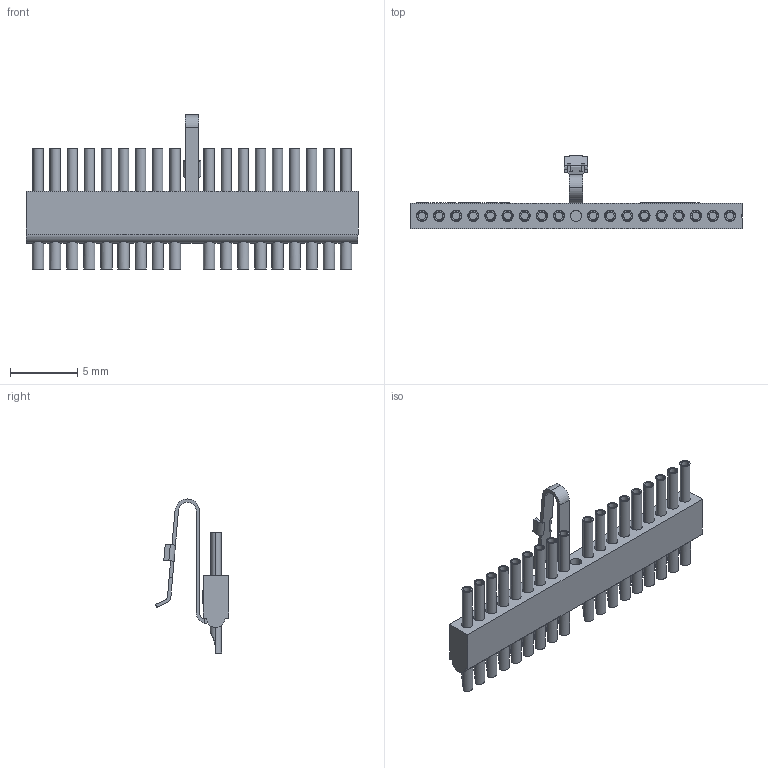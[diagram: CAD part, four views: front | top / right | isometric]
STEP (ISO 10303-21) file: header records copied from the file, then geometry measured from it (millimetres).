
FILE_DESCRIPTION (( 'STEP AP214' ), '1' );
FILE_NAME ('A25001-018.STEP', '2015-11-04T15:07:50', ( '' ), ( '' ), 'SwSTEP 2.0', 'SolidWorks 2015', '' );
FILE_SCHEMA (( 'AUTOMOTIVE_DESIGN' ));
Length unit declared in the file: inch
Products named in the file (1): A25001-018
Bounding box: 24.64 x 5.45 x 11.43 mm (x, y, z)
Volume: 176.6 mm3; surface area: 904.3 mm2
Topology: 1 solids, 19 shells, 712 faces, 1590 edges, 1022 vertices
Faces by surface type: cylinder 343, plane 282, bspline 48, torus 39
Entity records: 23701 total; most frequent: CARTESIAN_POINT 7755, DIRECTION 3303, ORIENTED_EDGE 3180, EDGE_CURVE 1590, AXIS2_PLACEMENT_3D 1254, VERTEX_POINT 1022, EDGE_LOOP 854, LINE 795
